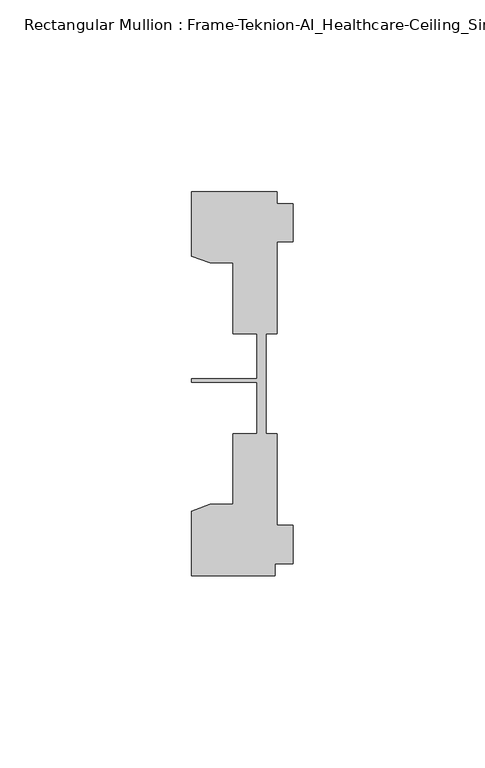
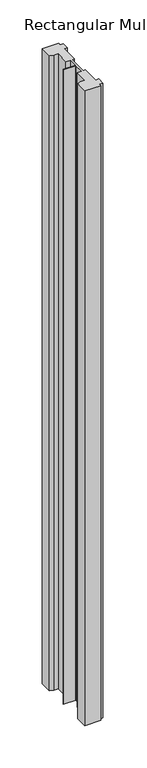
"""IFC4 building model written with IfcOpenShell, lengths in millimetres: member geometry, Rectangular Mullion : Frame-Teknion-AI_Healthcare-Ceiling_Single_Channel."""

from ifc_helpers import new_model, si_unit, frame, origin, place, context, project, spatial, polyline, outline, extrude, source, transform, mapped, element, save


def rectangular_mullion_frame_teknion_ai_healthcare_ceiling_046dd384(model_context):
    return source(origin(), model_context, "Body", "SweptSolid", [
        extrude(outline(polyline([(-26.4921999, -34.0201677), (-21.6625199, -32.2880982), (-15.6737764, -32.2880982), (-15.6737764, -13.9110722), (-9.4507761, -13.9110722), (-9.4507761, -0.4036528), (-26.4921999, -0.4036528), (-26.4921999, 0.4036528), (-9.4507761, 0.4036528), (-9.4507761, 12.2509301), (-15.6737764, 12.2509301), (-15.6737764, 30.6279561), (-21.6625199, 30.6279561), (-26.4921999, 32.3600207), (-26.4921999, 49.1699293), (-4.2672007, 49.1699293), (-4.2672007, 46.1219322), (0.0, 46.1219322), (0.0, 36.1219249), (-4.2672007, 36.1219249), (-4.2672007, 12.2509301), (-7.1647766, 12.2509301), (-7.1647766, -0.0814804), (-7.1647766, -13.9110722), (-4.2672007, -13.9110722), (-4.2672007, -37.7820716), (0.0, -37.7820716), (0.0, -47.782071), (-4.7752002, -47.782071), (-4.7752002, -50.8315128), (-26.4921999, -50.8315128), (-26.4921999, -34.0201677)])), frame((0.0, 0.0, -914.4), z_axis=(0.0, 0.0, 1.0), x_axis=(1.0, 0.0, 0.0)), (0.0, 0.0, 1.0), 914.4),
    ])


if __name__ == "__main__":
    model = new_model("IFC4")
    model_context = context("Model", 3, world=origin())
    ifc_project = project(units=[si_unit("LENGTHUNIT", "METRE", prefix="MILLI")], contexts=[model_context])
    site = spatial("IfcSite", under=ifc_project)
    building = spatial("IfcBuilding", under=site)
    placement = place(None, origin())
    rectangular_mullion_frame_teknion_ai_healthcare_ceiling_shape = rectangular_mullion_frame_teknion_ai_healthcare_ceiling_046dd384(model_context)
    element("IfcMember", 1, ObjectType="Rectangular Mullion : Frame-Teknion-AI_Healthcare-Ceiling_Single_Channel", at=placement, inside=building, context=model_context, shape_type="MappedRepresentation", body=[
        mapped(rectangular_mullion_frame_teknion_ai_healthcare_ceiling_shape, transform((0.0, 0.0, 0.0), x_axis=(1.0, 0.0, 0.0), y_axis=(0.0, 1.0, 0.0), z_axis=(0.0, 0.0, 1.0))),
    ])
    save(model, "model.ifc")
